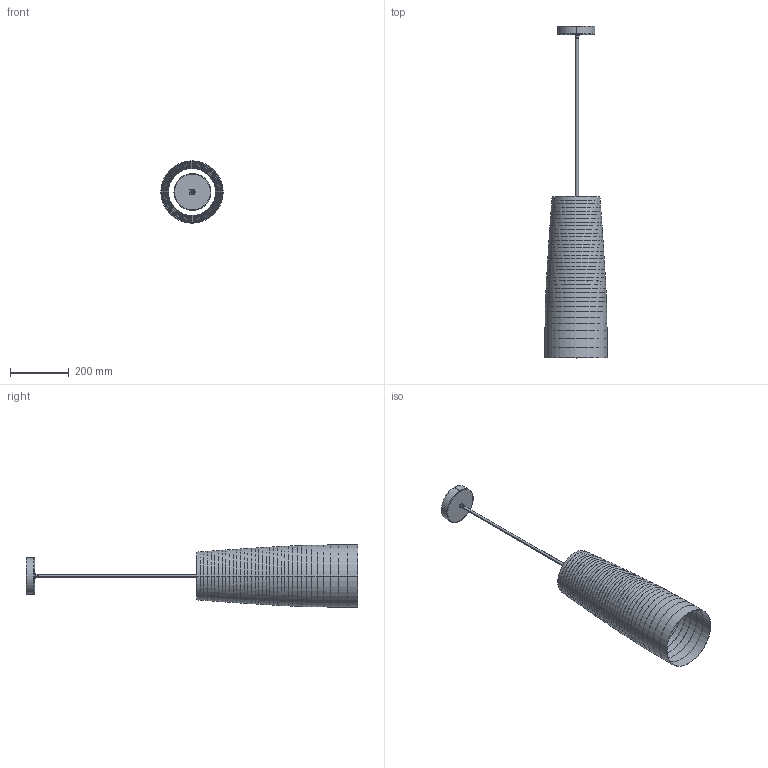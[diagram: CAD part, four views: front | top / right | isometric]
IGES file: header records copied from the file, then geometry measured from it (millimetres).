
Start section: SolidWorks IGES file using analytic representation for surfaces
Global section: file name: X:\stage\TITE 2\TITE 2.IGS; native system: SolidWorks 2006 by SolidWorks Corporation; preprocessor: SolidWorks 2006 by SolidWorks Corporation; author: stagetec; date: 060920.163333; units: millimetre
Bounding box: 212.4 x 1131.18 x 212.4 mm (x, y, z)
Volume: 469157.3 mm3; surface area: 783432.9 mm2
Topology: 4 solids, 4 shells, 255 faces, 566 edges, 322 vertices
Faces by surface type: revolution 231, plane 24
